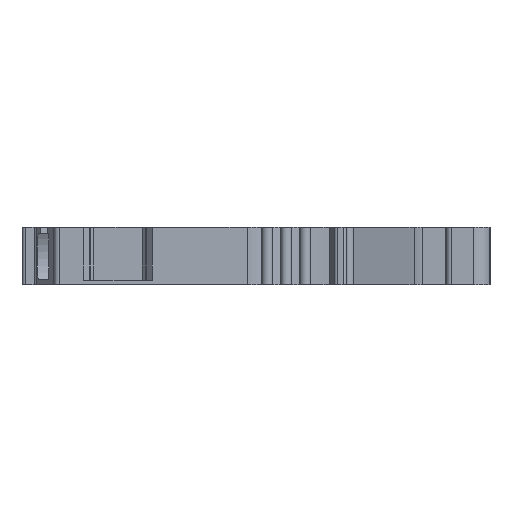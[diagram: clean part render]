
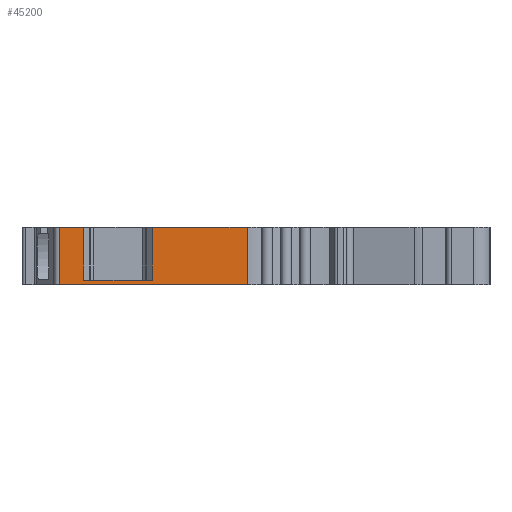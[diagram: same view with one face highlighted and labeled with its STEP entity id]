
A CAD part, left-side view. The second image highlights one B-rep face of the part: STEP entity #45200.
In plain terms, the highlighted planar face has unit normal (-1, 0, 0).
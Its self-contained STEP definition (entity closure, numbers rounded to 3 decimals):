
#2770=CARTESIAN_POINT('',(-48.5,16.,0.));
#2780=VERTEX_POINT('',#2770);
#2810=CARTESIAN_POINT('',(-48.5,7.7,0.));
#2820=DIRECTION('',(0.,1.,0.));
#2830=VECTOR('',#2820,1.);
#2840=LINE('',#2810,#2830);
#2850=CARTESIAN_POINT('',(-48.5,24.6,
0.));
#2860=VERTEX_POINT('',#2850);
#2870=EDGE_CURVE('',#2780,#2860,#2840,.T.);
#3570=CARTESIAN_POINT('',(-48.5,30.8,
0.));
#3580=VERTEX_POINT('',#3570);
#3610=CARTESIAN_POINT('',(-48.5,33.041,0.));
#3620=VERTEX_POINT('',#3610);
#3630=EDGE_CURVE('',#3580,#3620,#2840,.T.);
#22490=CARTESIAN_POINT('',(-48.5,33.041,
-5.2));
#22500=VERTEX_POINT('',#22490);
#22530=CARTESIAN_POINT('',(-48.5,7.7,
-5.2));
#22540=DIRECTION('',(0.,1.,0.));
#22550=VECTOR('',#22540,1.);
#22560=LINE('',#22530,#22550);
#22570=CARTESIAN_POINT('',(-48.5,16.,-5.2));
#22580=VERTEX_POINT('',#22570);
#22590=EDGE_CURVE('',#22580,#22500,#22560,.T.);
#44700=CARTESIAN_POINT('',(-48.5,33.041,0.));
#44710=DIRECTION('',(0.,0.,-1.));
#44720=VECTOR('',#44710,1.);
#44730=LINE('',#44700,#44720);
#44740=EDGE_CURVE('',#3620,#22500,#44730,.T.);
#44810=CARTESIAN_POINT('',(-48.5,16.,0.));
#44820=DIRECTION('',(1.,0.,0.));
#44830=DIRECTION('',(-0.,-1.,0.));
#44840=AXIS2_PLACEMENT_3D('',#44810,#44820,#44830);
#44850=PLANE('',#44840);
#44860=ORIENTED_EDGE('',*,*,#3630,.T.);
#44870=CARTESIAN_POINT('',(-48.5,30.8,
0.));
#44880=DIRECTION('',(0.,0.,1.));
#44890=VECTOR('',#44880,1.);
#44900=LINE('',#44870,#44890);
#44910=CARTESIAN_POINT('',(-48.5,30.8,
-4.8));
#44920=VERTEX_POINT('',#44910);
#44930=EDGE_CURVE('',#44920,#3580,#44900,.T.);
#44940=ORIENTED_EDGE('',*,*,#44930,.T.);
#44950=CARTESIAN_POINT('',(-48.5,7.7,
-4.8));
#44960=DIRECTION('',(0.,-1.,0.));
#44970=VECTOR('',#44960,1.);
#44980=LINE('',#44950,#44970);
#44990=CARTESIAN_POINT('',(-48.5,24.6,
-4.8));
#45000=VERTEX_POINT('',#44990);
#45010=EDGE_CURVE('',#44920,#45000,#44980,.T.);
#45020=ORIENTED_EDGE('',*,*,#45010,.F.);
#45030=CARTESIAN_POINT('',(-48.5,24.6,
0.));
#45040=DIRECTION('',(0.,0.,-1.));
#45050=VECTOR('',#45040,1.);
#45060=LINE('',#45030,#45050);
#45070=EDGE_CURVE('',#2860,#45000,#45060,.T.);
#45080=ORIENTED_EDGE('',*,*,#45070,.T.);
#45090=ORIENTED_EDGE('',*,*,#2870,.T.);
#45100=CARTESIAN_POINT('',(-48.5,16.,0.));
#45110=DIRECTION('',(0.,0.,-1.));
#45120=VECTOR('',#45110,1.);
#45130=LINE('',#45100,#45120);
#45140=EDGE_CURVE('',#2780,#22580,#45130,.T.);
#45150=ORIENTED_EDGE('',*,*,#45140,.F.);
#45160=ORIENTED_EDGE('',*,*,#22590,.F.);
#45170=ORIENTED_EDGE('',*,*,#44740,.T.);
#45180=EDGE_LOOP('',(#45170,#45160,#45150,#45090,#45080,#45020,#44940,
#44860));
#45190=FACE_OUTER_BOUND('',#45180,.T.);
#45200=ADVANCED_FACE('',(#45190),#44850,.F.);
